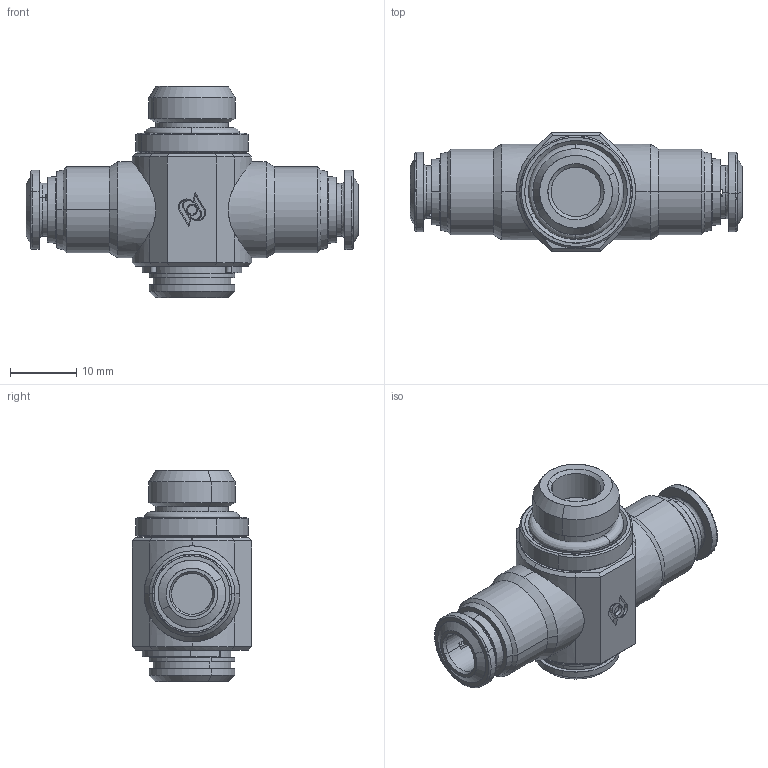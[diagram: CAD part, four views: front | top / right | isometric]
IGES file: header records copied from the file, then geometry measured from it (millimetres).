
Start section: SolidWorks IGES file using analytic representation for surfaces
Global section: file name: K:\Disegni Esecutivi\Serie 57000\ASSIEMI_57000\57560\ASSIEMI_PIENI_57560\5756000004.IGS; native system: SolidWorks 2008; preprocessor: SolidWorks 2008; author: cad02; date: 080220.083621; units: millimetre
Bounding box: 50.2 x 18 x 32 mm (x, y, z)
Surface area: 5205.9 mm2 (no closed solid volume)
Topology: 0 solids, 0 shells, 257 faces, 3419 edges, 3419 vertices
Faces by surface type: revolution 146, bspline 111
